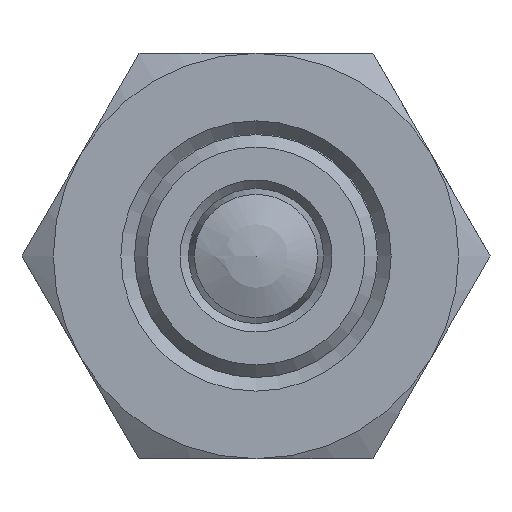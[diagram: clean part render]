
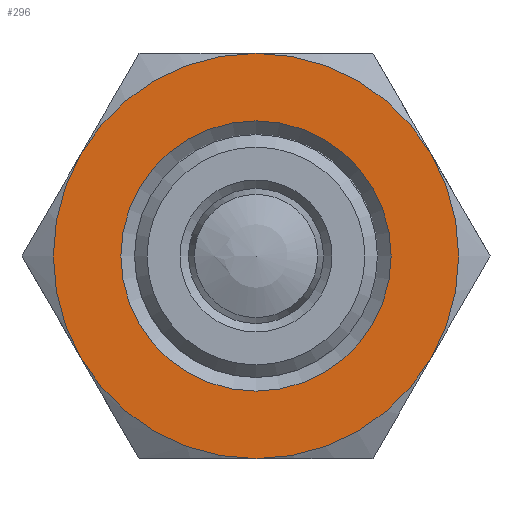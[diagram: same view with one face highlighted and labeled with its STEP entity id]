
A CAD part, front view. The second image highlights one B-rep face of the part: STEP entity #296.
In plain terms, the highlighted planar face has unit normal (0, -1, 0).
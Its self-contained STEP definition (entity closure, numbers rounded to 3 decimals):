
#296 = ADVANCED_FACE( '', ( #437, #438 ), #439, .F. );
#437 = FACE_BOUND( '', #581, .T. );
#438 = FACE_OUTER_BOUND( '', #582, .T. );
#439 = PLANE( '', #583 );
#581 = EDGE_LOOP( '', ( #913 ) );
#582 = EDGE_LOOP( '', ( #914, #915, #916, #917, #918, #919 ) );
#583 = AXIS2_PLACEMENT_3D( '', #920, #921, #922 );
#913 = ORIENTED_EDGE( '', *, *, #1020, .F. );
#914 = ORIENTED_EDGE( '', *, *, #1023, .T. );
#915 = ORIENTED_EDGE( '', *, *, #1024, .T. );
#916 = ORIENTED_EDGE( '', *, *, #990, .T. );
#917 = ORIENTED_EDGE( '', *, *, #1015, .T. );
#918 = ORIENTED_EDGE( '', *, *, #1016, .T. );
#919 = ORIENTED_EDGE( '', *, *, #1017, .T. );
#920 = CARTESIAN_POINT( '', ( 12., 0., 0. ) );
#921 = DIRECTION( '', ( 0., 1., 0. ) );
#922 = DIRECTION( '', ( 0., 0., 1. ) );
#990 = EDGE_CURVE( '', #1126, #1127, #1128, .T. );
#1015 = EDGE_CURVE( '', #1127, #1108, #1165, .T. );
#1016 = EDGE_CURVE( '', #1108, #1120, #1166, .T. );
#1017 = EDGE_CURVE( '', #1120, #1167, #1168, .T. );
#1020 = EDGE_CURVE( '', #1171, #1171, #1172, .T. );
#1023 = EDGE_CURVE( '', #1167, #1135, #1177, .T. );
#1024 = EDGE_CURVE( '', #1135, #1126, #1178, .T. );
#1108 = VERTEX_POINT( '', #1393 );
#1120 = VERTEX_POINT( '', #1431 );
#1126 = VERTEX_POINT( '', #1461 );
#1127 = VERTEX_POINT( '', #1462 );
#1128 = CIRCLE( '', #1463, 12. );
#1135 = VERTEX_POINT( '', #1483 );
#1165 = CIRCLE( '', #1587, 12. );
#1166 = CIRCLE( '', #1588, 12. );
#1167 = VERTEX_POINT( '', #1589 );
#1168 = CIRCLE( '', #1590, 12. );
#1171 = VERTEX_POINT( '', #1605 );
#1172 = CIRCLE( '', #1606, 8. );
#1177 = CIRCLE( '', #1611, 12. );
#1178 = CIRCLE( '', #1612, 12. );
#1393 = CARTESIAN_POINT( '', ( -12., 0., 0. ) );
#1431 = CARTESIAN_POINT( '', ( -6., 0., -10.392 ) );
#1461 = CARTESIAN_POINT( '', ( 6., 0., 10.392 ) );
#1462 = CARTESIAN_POINT( '', ( -6., 0., 10.392 ) );
#1463 = AXIS2_PLACEMENT_3D( '', #1697, #1698, #1699 );
#1483 = CARTESIAN_POINT( '', ( 12., 0., 0. ) );
#1587 = AXIS2_PLACEMENT_3D( '', #1724, #1725, #1726 );
#1588 = AXIS2_PLACEMENT_3D( '', #1727, #1728, #1729 );
#1589 = CARTESIAN_POINT( '', ( 6., 0., -10.392 ) );
#1590 = AXIS2_PLACEMENT_3D( '', #1730, #1731, #1732 );
#1605 = CARTESIAN_POINT( '', ( 0., 0., -8. ) );
#1606 = AXIS2_PLACEMENT_3D( '', #1733, #1734, #1735 );
#1611 = AXIS2_PLACEMENT_3D( '', #1742, #1743, #1744 );
#1612 = AXIS2_PLACEMENT_3D( '', #1745, #1746, #1747 );
#1697 = CARTESIAN_POINT( '', ( 0., 0., 0. ) );
#1698 = DIRECTION( '', ( 0., -1., 0. ) );
#1699 = DIRECTION( '', ( 0., 0., -1. ) );
#1724 = CARTESIAN_POINT( '', ( 0., 0., 0. ) );
#1725 = DIRECTION( '', ( 0., -1., 0. ) );
#1726 = DIRECTION( '', ( 0., 0., -1. ) );
#1727 = CARTESIAN_POINT( '', ( 0., 0., 0. ) );
#1728 = DIRECTION( '', ( 0., -1., 0. ) );
#1729 = DIRECTION( '', ( 0., 0., -1. ) );
#1730 = CARTESIAN_POINT( '', ( 0., 0., 0. ) );
#1731 = DIRECTION( '', ( 0., -1., 0. ) );
#1732 = DIRECTION( '', ( 0., 0., -1. ) );
#1733 = CARTESIAN_POINT( '', ( 0., 0., 0. ) );
#1734 = DIRECTION( '', ( 0., -1., 0. ) );
#1735 = DIRECTION( '', ( 0., 0., -1. ) );
#1742 = CARTESIAN_POINT( '', ( 0., 0., 0. ) );
#1743 = DIRECTION( '', ( 0., -1., 0. ) );
#1744 = DIRECTION( '', ( 0., 0., -1. ) );
#1745 = CARTESIAN_POINT( '', ( 0., 0., 0. ) );
#1746 = DIRECTION( '', ( 0., -1., 0. ) );
#1747 = DIRECTION( '', ( 0., 0., -1. ) );
